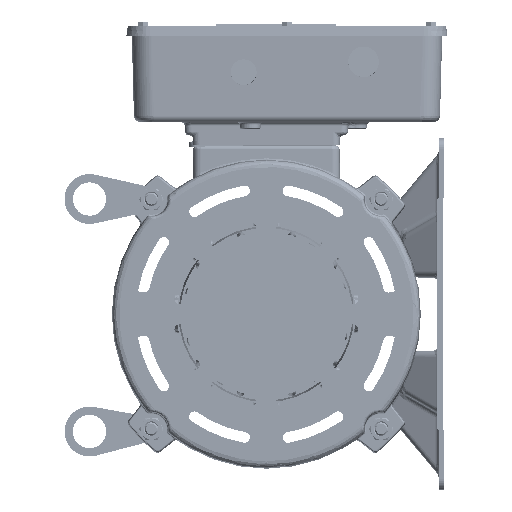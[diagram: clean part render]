
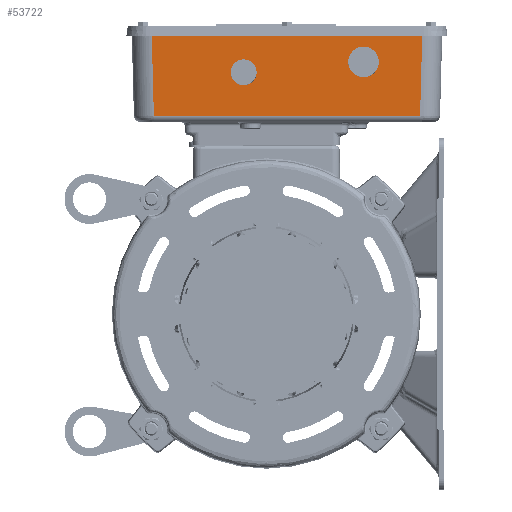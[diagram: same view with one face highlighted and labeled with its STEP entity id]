
A CAD part, left-side view. The second image highlights one B-rep face of the part: STEP entity #53722.
In plain terms, the highlighted planar face has unit normal (-1, 0, -0.026) as drawn and (-1, -0.026, 0) by its records, which use the part's own axes.
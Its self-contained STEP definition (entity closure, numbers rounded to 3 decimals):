
#456 = VERTEX_POINT ( 'NONE', #88819 ) ;
#472 = CARTESIAN_POINT ( 'NONE',  ( -361.401, 198.606, -101. ) ) ;
#843 = EDGE_CURVE ( 'NONE', #6556, #94397, #72084, .T. ) ;
#1568 = EDGE_LOOP ( 'NONE', ( #37185, #53796 ) ) ;
#6556 = VERTEX_POINT ( 'NONE', #113323 ) ;
#9676 = FACE_BOUND ( 'NONE', #1568, .T. ) ;
#10358 = AXIS2_PLACEMENT_3D ( 'NONE', #67940, #105299, #21368 ) ;
#10544 = CARTESIAN_POINT ( 'NONE',  ( -360.679, 171.035, -17. ) ) ;
#11534 = VERTEX_POINT ( 'NONE', #66726 ) ;
#14033 = EDGE_CURVE ( 'NONE', #103589, #85720, #112261, .T. ) ;
#15742 = CARTESIAN_POINT ( 'NONE',  ( -361.252, 192.905, 116.856 ) ) ;
#16169 = EDGE_CURVE ( 'NONE', #456, #30109, #78491, .T. ) ;
#18183 = DIRECTION ( 'NONE',  ( -1., -0.026, 0. ) ) ;
#19301 = DIRECTION ( 'NONE',  ( -0.026, 0.999, -0.026 ) ) ;
#19810 = LINE ( 'NONE', #57208, #115580 ) ;
#21368 = DIRECTION ( 'NONE',  ( 0.026, -1., 0. ) ) ;
#22433 = VECTOR ( 'NONE', #53136, 1000. ) ;
#22920 = CARTESIAN_POINT ( 'NONE',  ( -360.582, 167.335, 73. ) ) ;
#23974 = EDGE_CURVE ( 'NONE', #85720, #103589, #63208, .T. ) ;
#25537 = DIRECTION ( 'NONE',  ( 0., 0., 1. ) ) ;
#25653 = AXIS2_PLACEMENT_3D ( 'NONE', #10544, #47948, #85284 ) ;
#29676 = EDGE_CURVE ( 'NONE', #30109, #456, #111298, .T. ) ;
#30109 = VERTEX_POINT ( 'NONE', #32245 ) ;
#32245 = CARTESIAN_POINT ( 'NONE',  ( -360.425, 161.315, -17. ) ) ;
#32386 = DIRECTION ( 'NONE',  ( 0.026, -1., 0. ) ) ;
#35080 = EDGE_LOOP ( 'NONE', ( #103419, #98960 ) ) ;
#37185 = ORIENTED_EDGE ( 'NONE', *, *, #23974, .F. ) ;
#37888 = DIRECTION ( 'NONE',  ( -1., -0.026, 0. ) ) ;
#38269 = VECTOR ( 'NONE', #19301, 1000. ) ;
#47078 = FACE_OUTER_BOUND ( 'NONE', #120958, .T. ) ;
#47948 = DIRECTION ( 'NONE',  ( -1., -0.026, 0. ) ) ;
#49121 = EDGE_CURVE ( 'NONE', #103306, #6556, #65872, .T. ) ;
#53136 = DIRECTION ( 'NONE',  ( 0.026, -0.999, -0.026 ) ) ;
#53722 = ADVANCED_FACE ( 'NONE', ( #93620, #9676, #47078 ), #84438, .T. ) ;
#53796 = ORIENTED_EDGE ( 'NONE', *, *, #14033, .F. ) ;
#55575 = DIRECTION ( 'NONE',  ( 0.026, -1., 0. ) ) ;
#56244 = ORIENTED_EDGE ( 'NONE', *, *, #843, .F. ) ;
#57208 = CARTESIAN_POINT ( 'NONE',  ( -359.827, 138.475, -84.303 ) ) ;
#58486 = AXIS2_PLACEMENT_3D ( 'NONE', #78940, #116332, #32386 ) ;
#59436 = AXIS2_PLACEMENT_3D ( 'NONE', #102130, #18183, #55575 ) ;
#63152 = EDGE_CURVE ( 'NONE', #11534, #103306, #19810, .T. ) ;
#63208 = CIRCLE ( 'NONE', #10358, 11.5 ) ;
#64010 = CARTESIAN_POINT ( 'NONE',  ( -361.389, 198.124, 116.993 ) ) ;
#65872 = LINE ( 'NONE', #103237, #38269 ) ;
#66726 = CARTESIAN_POINT ( 'NONE',  ( -359.827, 138.475, 115.431 ) ) ;
#67940 = CARTESIAN_POINT ( 'NONE',  ( -360.883, 178.831, 73. ) ) ;
#72084 = LINE ( 'NONE', #109459, #108352 ) ;
#73927 = ORIENTED_EDGE ( 'NONE', *, *, #63152, .F. ) ;
#75250 = DIRECTION ( 'NONE',  ( -0.026, 1., 0. ) ) ;
#75258 = ORIENTED_EDGE ( 'NONE', *, *, #49121, .F. ) ;
#75937 = ORIENTED_EDGE ( 'NONE', *, *, #88082, .F. ) ;
#78491 = CIRCLE ( 'NONE', #25653, 9.723 ) ;
#78940 = CARTESIAN_POINT ( 'NONE',  ( -360.679, 171.035, -17. ) ) ;
#84438 = PLANE ( 'NONE',  #85539 ) ;
#85284 = DIRECTION ( 'NONE',  ( 0.026, -1., 0. ) ) ;
#85539 = AXIS2_PLACEMENT_3D ( 'NONE', #472, #37888, #75250 ) ;
#85720 = VERTEX_POINT ( 'NONE', #22920 ) ;
#88082 = EDGE_CURVE ( 'NONE', #94397, #11534, #99667, .T. ) ;
#88819 = CARTESIAN_POINT ( 'NONE',  ( -360.934, 180.755, -17. ) ) ;
#93620 = FACE_BOUND ( 'NONE', #35080, .T. ) ;
#94397 = VERTEX_POINT ( 'NONE', #64010 ) ;
#94543 = DIRECTION ( 'NONE',  ( 0., 0., -1. ) ) ;
#97276 = CARTESIAN_POINT ( 'NONE',  ( -361.184, 190.327, 73. ) ) ;
#98960 = ORIENTED_EDGE ( 'NONE', *, *, #16169, .F. ) ;
#99667 = LINE ( 'NONE', #15742, #22433 ) ;
#102130 = CARTESIAN_POINT ( 'NONE',  ( -360.883, 178.831, 73. ) ) ;
#103237 = CARTESIAN_POINT ( 'NONE',  ( -361.412, 198.998, -86.015 ) ) ;
#103306 = VERTEX_POINT ( 'NONE', #120952 ) ;
#103419 = ORIENTED_EDGE ( 'NONE', *, *, #29676, .F. ) ;
#103589 = VERTEX_POINT ( 'NONE', #97276 ) ;
#105299 = DIRECTION ( 'NONE',  ( -1., -0.026, 0. ) ) ;
#108352 = VECTOR ( 'NONE', #25537, 1000. ) ;
#109459 = CARTESIAN_POINT ( 'NONE',  ( -361.389, 198.124, 117.005 ) ) ;
#111298 = CIRCLE ( 'NONE', #58486, 9.723 ) ;
#112261 = CIRCLE ( 'NONE', #59436, 11.5 ) ;
#113323 = CARTESIAN_POINT ( 'NONE',  ( -361.389, 198.124, -85.993 ) ) ;
#115580 = VECTOR ( 'NONE', #94543, 1000. ) ;
#116332 = DIRECTION ( 'NONE',  ( -1., -0.026, 0. ) ) ;
#120952 = CARTESIAN_POINT ( 'NONE',  ( -359.827, 138.475, -84.431 ) ) ;
#120958 = EDGE_LOOP ( 'NONE', ( #73927, #75937, #56244, #75258 ) ) ;
